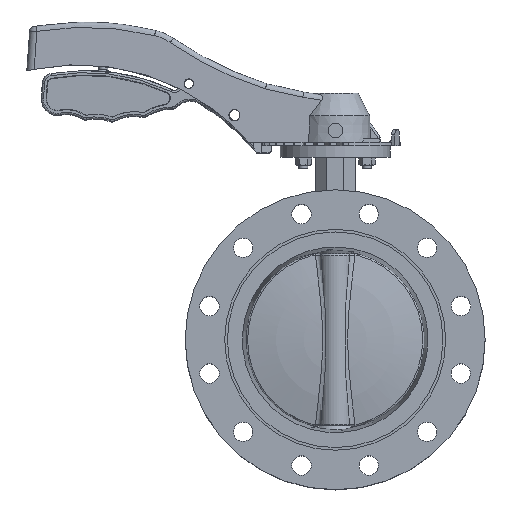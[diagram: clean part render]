
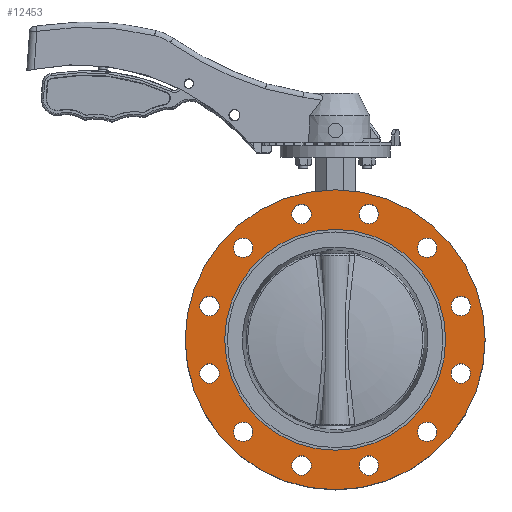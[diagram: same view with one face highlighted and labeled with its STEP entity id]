
A CAD part, top view. The second image highlights one B-rep face of the part: STEP entity #12453.
In plain terms, the highlighted planar face has unit normal (0, 0, 1).
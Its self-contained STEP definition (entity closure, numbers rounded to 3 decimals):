
#488 = DIRECTION ( 'NONE',  ( 0., 0., -1. ) ) ;
#683 = ORIENTED_EDGE ( 'NONE', *, *, #3603, .T. ) ;
#830 = CIRCLE ( 'NONE', #26525, 11. ) ;
#1222 = VERTEX_POINT ( 'NONE', #27622 ) ;
#1545 = VERTEX_POINT ( 'NONE', #22327 ) ;
#2203 = AXIS2_PLACEMENT_3D ( 'NONE', #65419, #40049, #60418 ) ;
#3288 = AXIS2_PLACEMENT_3D ( 'NONE', #28926, #59419, #65066 ) ;
#3603 = EDGE_CURVE ( 'NONE', #13995, #13995, #40413, .T. ) ;
#3663 = ORIENTED_EDGE ( 'NONE', *, *, #34397, .T. ) ;
#5259 = EDGE_LOOP ( 'NONE', ( #683 ) ) ;
#5847 = ORIENTED_EDGE ( 'NONE', *, *, #52570, .T. ) ;
#5941 = CIRCLE ( 'NONE', #19840, 11. ) ;
#6321 = EDGE_LOOP ( 'NONE', ( #35713 ) ) ;
#6484 = CIRCLE ( 'NONE', #12908, 170. ) ;
#6992 = ORIENTED_EDGE ( 'NONE', *, *, #21854, .T. ) ;
#7045 = DIRECTION ( 'NONE',  ( 0., 0., -1. ) ) ;
#7737 = EDGE_CURVE ( 'NONE', #12998, #12998, #56989, .T. ) ;
#8672 = DIRECTION ( 'NONE',  ( -1., 0., 0. ) ) ;
#9361 = ORIENTED_EDGE ( 'NONE', *, *, #7737, .T. ) ;
#9920 = EDGE_LOOP ( 'NONE', ( #5847 ) ) ;
#10335 = ORIENTED_EDGE ( 'NONE', *, *, #54272, .T. ) ;
#11040 = FACE_BOUND ( 'NONE', #19889, .T. ) ;
#11066 = AXIS2_PLACEMENT_3D ( 'NONE', #58094, #18292, #17964 ) ;
#11221 = VERTEX_POINT ( 'NONE', #46749 ) ;
#12453 = ADVANCED_FACE ( 'NONE', ( #24876, #19519, #14467, #34865, #45256, #19857, #14786, #35202, #55634, #11040, #36840, #26487, #35851, #20534 ), #61920, .F. ) ;
#12908 = AXIS2_PLACEMENT_3D ( 'NONE', #25962, #45032, #50401 ) ;
#12912 = VERTEX_POINT ( 'NONE', #23989 ) ;
#12998 = VERTEX_POINT ( 'NONE', #18708 ) ;
#13239 = DIRECTION ( 'NONE',  ( -1., 0., 0. ) ) ;
#13666 = DIRECTION ( 'NONE',  ( 0., 0., -1. ) ) ;
#13995 = VERTEX_POINT ( 'NONE', #33342 ) ;
#14315 = VERTEX_POINT ( 'NONE', #20708 ) ;
#14410 = EDGE_LOOP ( 'NONE', ( #9361 ) ) ;
#14467 = FACE_BOUND ( 'NONE', #5259, .T. ) ;
#14641 = EDGE_LOOP ( 'NONE', ( #27136 ) ) ;
#14786 = FACE_BOUND ( 'NONE', #6321, .T. ) ;
#15445 = DIRECTION ( 'NONE',  ( 0., 0., -1. ) ) ;
#15620 = VERTEX_POINT ( 'NONE', #61447 ) ;
#16878 = AXIS2_PLACEMENT_3D ( 'NONE', #51106, #30942, #62067 ) ;
#17506 = CIRCLE ( 'NONE', #11066, 11. ) ;
#17964 = DIRECTION ( 'NONE',  ( -1., 0., 0. ) ) ;
#18292 = DIRECTION ( 'NONE',  ( 0., 0., -1. ) ) ;
#18708 = CARTESIAN_POINT ( 'NONE',  ( -49.176, -142.474, 73. ) ) ;
#18865 = CARTESIAN_POINT ( 'NONE',  ( 142.474, -38.176, 73. ) ) ;
#19349 = CIRCLE ( 'NONE', #3288, 11. ) ;
#19519 = FACE_OUTER_BOUND ( 'NONE', #65323, .T. ) ;
#19700 = CARTESIAN_POINT ( 'NONE',  ( -49.176, 142.474, 73. ) ) ;
#19840 = AXIS2_PLACEMENT_3D ( 'NONE', #47577, #7045, #47237 ) ;
#19857 = FACE_BOUND ( 'NONE', #9920, .T. ) ;
#19889 = EDGE_LOOP ( 'NONE', ( #44876 ) ) ;
#20534 = FACE_BOUND ( 'NONE', #47668, .T. ) ;
#20708 = CARTESIAN_POINT ( 'NONE',  ( 131.474, -38.176, 73. ) ) ;
#21586 = CIRCLE ( 'NONE', #64273, 11. ) ;
#21668 = VERTEX_POINT ( 'NONE', #26344 ) ;
#21854 = EDGE_CURVE ( 'NONE', #14315, #14315, #830, .T. ) ;
#22263 = ORIENTED_EDGE ( 'NONE', *, *, #54861, .T. ) ;
#22327 = CARTESIAN_POINT ( 'NONE',  ( 93.298, -104.298, 73. ) ) ;
#22823 = ORIENTED_EDGE ( 'NONE', *, *, #54776, .T. ) ;
#22989 = CARTESIAN_POINT ( 'NONE',  ( 104.298, 104.298, 73. ) ) ;
#23402 = CARTESIAN_POINT ( 'NONE',  ( -142.474, -38.176, 73. ) ) ;
#23562 = CIRCLE ( 'NONE', #44918, 11. ) ;
#23819 = DIRECTION ( 'NONE',  ( 0., 0., -1. ) ) ;
#23989 = CARTESIAN_POINT ( 'NONE',  ( -153.474, -38.176, 73. ) ) ;
#24876 = FACE_BOUND ( 'NONE', #14641, .T. ) ;
#25962 = CARTESIAN_POINT ( 'NONE',  ( 0., 0., 73. ) ) ;
#26153 = EDGE_CURVE ( 'NONE', #15620, #15620, #47657, .T. ) ;
#26344 = CARTESIAN_POINT ( 'NONE',  ( 131.474, 38.176, 73. ) ) ;
#26487 = FACE_BOUND ( 'NONE', #44051, .T. ) ;
#26525 = AXIS2_PLACEMENT_3D ( 'NONE', #18865, #38927, #58633 ) ;
#26644 = CARTESIAN_POINT ( 'NONE',  ( 27.176, -142.474, 73. ) ) ;
#27136 = ORIENTED_EDGE ( 'NONE', *, *, #26153, .F. ) ;
#27293 = VERTEX_POINT ( 'NONE', #26644 ) ;
#27337 = AXIS2_PLACEMENT_3D ( 'NONE', #50884, #34455, #49889 ) ;
#27622 = CARTESIAN_POINT ( 'NONE',  ( 27.176, 142.474, 73. ) ) ;
#28008 = AXIS2_PLACEMENT_3D ( 'NONE', #33738, #45150, #65522 ) ;
#28926 = CARTESIAN_POINT ( 'NONE',  ( 142.474, 38.176, 73. ) ) ;
#30465 = EDGE_CURVE ( 'NONE', #30957, #30957, #37291, .T. ) ;
#30641 = ORIENTED_EDGE ( 'NONE', *, *, #56152, .T. ) ;
#30942 = DIRECTION ( 'NONE',  ( 0., 0., -1. ) ) ;
#30957 = VERTEX_POINT ( 'NONE', #55796 ) ;
#31947 = VERTEX_POINT ( 'NONE', #62079 ) ;
#33342 = CARTESIAN_POINT ( 'NONE',  ( 93.298, 104.298, 73. ) ) ;
#33738 = CARTESIAN_POINT ( 'NONE',  ( -38.176, 142.474, 73. ) ) ;
#34119 = CARTESIAN_POINT ( 'NONE',  ( -104.298, -104.298, 73. ) ) ;
#34397 = EDGE_CURVE ( 'NONE', #35370, #35370, #56872, .T. ) ;
#34455 = DIRECTION ( 'NONE',  ( 0., 0., 1. ) ) ;
#34865 = FACE_BOUND ( 'NONE', #63165, .T. ) ;
#35202 = FACE_BOUND ( 'NONE', #14410, .T. ) ;
#35370 = VERTEX_POINT ( 'NONE', #19700 ) ;
#35713 = ORIENTED_EDGE ( 'NONE', *, *, #48694, .T. ) ;
#35851 = FACE_BOUND ( 'NONE', #53152, .T. ) ;
#36082 = CIRCLE ( 'NONE', #16878, 11. ) ;
#36840 = FACE_BOUND ( 'NONE', #43089, .T. ) ;
#37291 = CIRCLE ( 'NONE', #44833, 11. ) ;
#38927 = DIRECTION ( 'NONE',  ( 0., 0., -1. ) ) ;
#40049 = DIRECTION ( 'NONE',  ( 0., 0., -1. ) ) ;
#40413 = CIRCLE ( 'NONE', #51067, 11. ) ;
#41958 = ORIENTED_EDGE ( 'NONE', *, *, #30465, .T. ) ;
#42694 = CARTESIAN_POINT ( 'NONE',  ( -115.298, 104.298, 73. ) ) ;
#43089 = EDGE_LOOP ( 'NONE', ( #30641 ) ) ;
#43138 = CARTESIAN_POINT ( 'NONE',  ( -38.176, -142.474, 73. ) ) ;
#44051 = EDGE_LOOP ( 'NONE', ( #53330 ) ) ;
#44752 = EDGE_CURVE ( 'NONE', #52760, #52760, #5941, .T. ) ;
#44833 = AXIS2_PLACEMENT_3D ( 'NONE', #34119, #23819, #8672 ) ;
#44876 = ORIENTED_EDGE ( 'NONE', *, *, #65074, .T. ) ;
#44918 = AXIS2_PLACEMENT_3D ( 'NONE', #62323, #488, #46357 ) ;
#45032 = DIRECTION ( 'NONE',  ( 0., 0., 1. ) ) ;
#45150 = DIRECTION ( 'NONE',  ( 0., 0., -1. ) ) ;
#45256 = FACE_BOUND ( 'NONE', #59689, .T. ) ;
#46357 = DIRECTION ( 'NONE',  ( -1., 0., 0. ) ) ;
#46749 = CARTESIAN_POINT ( 'NONE',  ( 170., 0., 73. ) ) ;
#47237 = DIRECTION ( 'NONE',  ( -1., 0., 0. ) ) ;
#47577 = CARTESIAN_POINT ( 'NONE',  ( -104.298, 104.298, 73. ) ) ;
#47657 = CIRCLE ( 'NONE', #27337, 125.2 ) ;
#47668 = EDGE_LOOP ( 'NONE', ( #10335 ) ) ;
#48694 = EDGE_CURVE ( 'NONE', #27293, #27293, #17506, .T. ) ;
#49889 = DIRECTION ( 'NONE',  ( 1., 0., 0. ) ) ;
#50401 = DIRECTION ( 'NONE',  ( 1., 0., 0. ) ) ;
#50884 = CARTESIAN_POINT ( 'NONE',  ( 0., 0., 73. ) ) ;
#51067 = AXIS2_PLACEMENT_3D ( 'NONE', #22989, #63074, #13239 ) ;
#51106 = CARTESIAN_POINT ( 'NONE',  ( 104.298, -104.298, 73. ) ) ;
#52570 = EDGE_CURVE ( 'NONE', #1545, #1545, #36082, .T. ) ;
#52708 = AXIS2_PLACEMENT_3D ( 'NONE', #43138, #58833, #63525 ) ;
#52760 = VERTEX_POINT ( 'NONE', #42694 ) ;
#53152 = EDGE_LOOP ( 'NONE', ( #3663 ) ) ;
#53330 = ORIENTED_EDGE ( 'NONE', *, *, #44752, .T. ) ;
#54272 = EDGE_CURVE ( 'NONE', #1222, #1222, #23562, .T. ) ;
#54776 = EDGE_CURVE ( 'NONE', #21668, #21668, #19349, .T. ) ;
#54861 = EDGE_CURVE ( 'NONE', #11221, #11221, #6484, .T. ) ;
#55634 = FACE_BOUND ( 'NONE', #62645, .T. ) ;
#55796 = CARTESIAN_POINT ( 'NONE',  ( -115.298, -104.298, 73. ) ) ;
#56152 = EDGE_CURVE ( 'NONE', #31947, #31947, #63130, .T. ) ;
#56872 = CIRCLE ( 'NONE', #28008, 11. ) ;
#56989 = CIRCLE ( 'NONE', #52708, 11. ) ;
#58094 = CARTESIAN_POINT ( 'NONE',  ( 38.176, -142.474, 73. ) ) ;
#58633 = DIRECTION ( 'NONE',  ( -1., 0., 0. ) ) ;
#58833 = DIRECTION ( 'NONE',  ( 0., 0., -1. ) ) ;
#59419 = DIRECTION ( 'NONE',  ( 0., 0., -1. ) ) ;
#59689 = EDGE_LOOP ( 'NONE', ( #6992 ) ) ;
#60099 = AXIS2_PLACEMENT_3D ( 'NONE', #62234, #15445, #61596 ) ;
#60418 = DIRECTION ( 'NONE',  ( -1., 0., 0. ) ) ;
#61447 = CARTESIAN_POINT ( 'NONE',  ( 125.2, 0., 73. ) ) ;
#61596 = DIRECTION ( 'NONE',  ( 1., 0., 0. ) ) ;
#61920 = PLANE ( 'NONE',  #60099 ) ;
#62067 = DIRECTION ( 'NONE',  ( -1., 0., 0. ) ) ;
#62079 = CARTESIAN_POINT ( 'NONE',  ( -153.474, 38.176, 73. ) ) ;
#62234 = CARTESIAN_POINT ( 'NONE',  ( -125.2, 0., 73. ) ) ;
#62323 = CARTESIAN_POINT ( 'NONE',  ( 38.176, 142.474, 73. ) ) ;
#62645 = EDGE_LOOP ( 'NONE', ( #41958 ) ) ;
#63074 = DIRECTION ( 'NONE',  ( 0., 0., -1. ) ) ;
#63130 = CIRCLE ( 'NONE', #2203, 11. ) ;
#63165 = EDGE_LOOP ( 'NONE', ( #22823 ) ) ;
#63525 = DIRECTION ( 'NONE',  ( -1., 0., 0. ) ) ;
#64135 = DIRECTION ( 'NONE',  ( -1., 0., 0. ) ) ;
#64273 = AXIS2_PLACEMENT_3D ( 'NONE', #23402, #13666, #64135 ) ;
#65066 = DIRECTION ( 'NONE',  ( -1., 0., 0. ) ) ;
#65074 = EDGE_CURVE ( 'NONE', #12912, #12912, #21586, .T. ) ;
#65323 = EDGE_LOOP ( 'NONE', ( #22263 ) ) ;
#65419 = CARTESIAN_POINT ( 'NONE',  ( -142.474, 38.176, 73. ) ) ;
#65522 = DIRECTION ( 'NONE',  ( -1., 0., 0. ) ) ;
